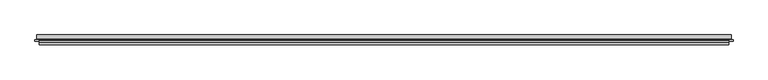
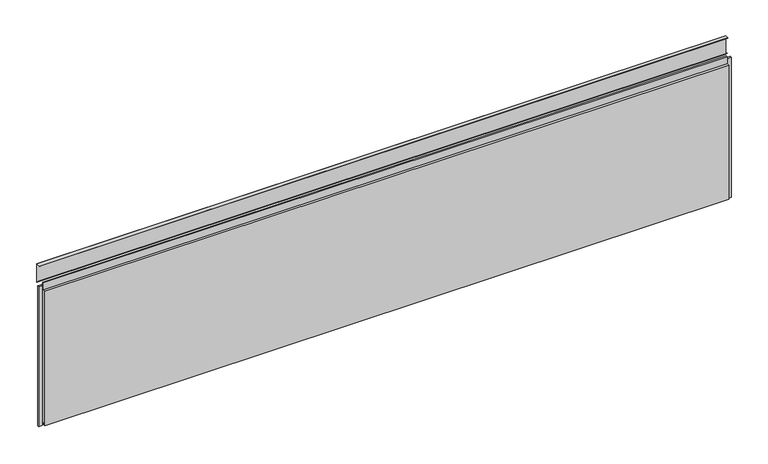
"""IFC4 building model written with IfcOpenShell, lengths in millimetres: plate geometry, Trimo_Qbiss Screen_Normal Panel-HORIZONTAL : HR - B."""

from ifc_helpers import new_model, si_unit, frame, origin, place, context, project, spatial, polyline, outline, extrude, source, transform, mapped, element, save


def plate_dc00106d(model_context):
    return source(origin(), model_context, "Body", "SweptSolid", [
        extrude(outline(polyline([(100.0, 748.2), (85.8578644, 762.3421356), (86.4235498, 762.907821), (99.2, 750.1313708), (99.2, 847.3569759), (80.0692781, 846.3543772), (80.0692781, 847.1554751), (100.0, 848.2), (100.0, 748.2)])), frame((-1742.5, 0.0, 0.0), z_axis=(1.0, 0.0, 0.0), x_axis=(0.0, 1.0, 0.0)), (0.0, 0.0, 1.0), 3485.0),
        extrude(outline(polyline([(-1733.0, 76.5978162), (-1733.0, 67.8978162), (-1752.0, 67.8978162), (-1752.0, 76.5978162), (-1733.0, 76.5978162)])), frame((0.0, 0.0, -1.0), z_axis=(0.0, 0.0, 1.0), x_axis=(1.0, 0.0, 0.0)), (0.0, 0.0, 1.0), 748.2),
        extrude(outline(polyline([(1733.0, 67.8978162), (1733.0, 76.5978162), (1752.0, 76.5978162), (1752.0, 67.8978162), (1733.0, 67.8978162)])), frame((0.0, 0.0, -1.0), z_axis=(0.0, 0.0, 1.0), x_axis=(1.0, 0.0, 0.0)), (0.0, 0.0, 1.0), 748.2),
        extrude(outline(polyline([(1730.0, 76.0), (1730.0, 71.0), (-1730.0, 71.0), (-1730.0, 76.0), (1730.0, 76.0)])), frame((0.0, 0.0, 726.2), z_axis=(0.0, 0.0, 1.0), x_axis=(1.0, 0.0, 0.0)), (0.0, 0.0, 1.0), 21.0),
        extrude(outline(polyline([(71.0, 725.2), (100.0, 725.2), (100.0, 0.0), (72.0, 0.0), (72.0, 15.5), (62.0, 15.5), (62.0, 7.0), (50.0, 7.0), (50.0, 725.2), (63.0, 725.2), (63.0, 762.7), (71.0, 762.7), (71.0, 725.2)])), frame((-1730.0, 0.0, 0.0), z_axis=(1.0, 0.0, 0.0), x_axis=(0.0, 1.0, 0.0)), (0.0, 0.0, 1.0), 3460.0),
    ])


if __name__ == "__main__":
    model = new_model("IFC4")
    model_context = context("Model", 3, world=origin())
    ifc_project = project(units=[si_unit("LENGTHUNIT", "METRE", prefix="MILLI")], contexts=[model_context])
    site = spatial("IfcSite", under=ifc_project)
    building = spatial("IfcBuilding", under=site)
    placement = place(None, origin())
    plate_shape = plate_dc00106d(model_context)
    element("IfcPlate", 1, ObjectType="Trimo_Qbiss Screen_Normal Panel-HORIZONTAL : HR - B", at=placement, inside=building, context=model_context, shape_type="MappedRepresentation", body=[
        mapped(plate_shape, transform((0.0, 0.0, 0.0), x_axis=(1.0, 0.0, 0.0), y_axis=(0.0, 1.0, 0.0), z_axis=(0.0, 0.0, 1.0))),
    ])
    save(model, "model.ifc")
